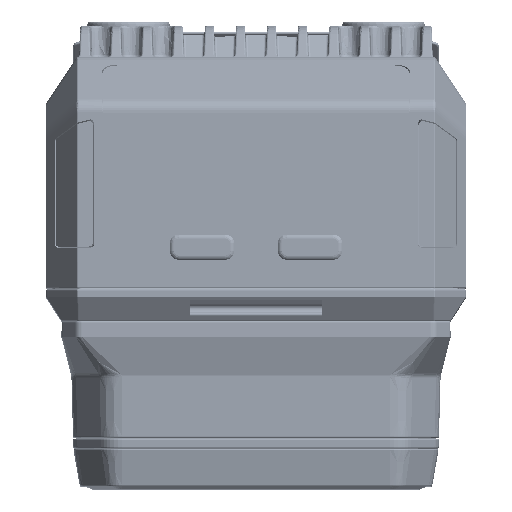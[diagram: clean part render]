
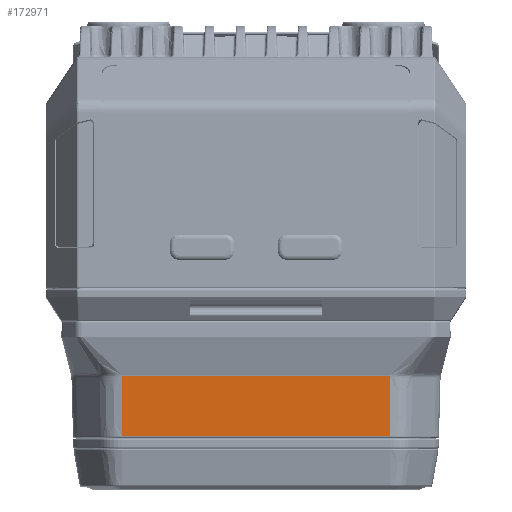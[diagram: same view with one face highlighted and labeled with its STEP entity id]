
A CAD part, top view. The second image highlights one B-rep face of the part: STEP entity #172971.
In plain terms, the highlighted planar face has unit normal (0, -0.026, 1).
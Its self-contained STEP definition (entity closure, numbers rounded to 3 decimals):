
#163862=DIRECTION('',(0.,-1.,
-0.026));
#163863=VECTOR('',#163862,7.695);
#163864=CARTESIAN_POINT('',(-17.209,-7.113,
36.497));
#163865=LINE('',#163864,#163863);
#163901=DIRECTION('',(0.,1.,0.026));
#163902=VECTOR('',#163901,7.695);
#163903=CARTESIAN_POINT('',(17.209,-14.805,
36.296));
#163904=LINE('',#163903,#163902);
#164311=DIRECTION('',(1.,0.,0.));
#164312=VECTOR('',#164311,34.418);
#164313=CARTESIAN_POINT('',(-17.209,-14.805,
36.296));
#164314=LINE('',#164313,#164312);
#167179=DIRECTION('',(-1.,0.,0.));
#167180=VECTOR('',#167179,34.418);
#167181=CARTESIAN_POINT('',(17.209,-7.113,
36.497));
#167182=LINE('',#167181,#167180);
#169968=CARTESIAN_POINT('',(17.209,-14.805,
36.296));
#169969=VERTEX_POINT('',#169968);
#169970=CARTESIAN_POINT('',(-17.209,-14.805,
36.296));
#169971=VERTEX_POINT('',#169970);
#169988=CARTESIAN_POINT('',(-17.209,-7.113,
36.497));
#169989=VERTEX_POINT('',#169988);
#169992=CARTESIAN_POINT('',(17.209,-7.113,
36.497));
#169993=VERTEX_POINT('',#169992);
#172957=CARTESIAN_POINT('',(17.329,-7.,36.5));
#172958=DIRECTION('',(0.,-0.026,1.));
#172959=DIRECTION('',(-1.,0.,0.));
#172960=AXIS2_PLACEMENT_3D('',#172957,#172958,#172959);
#172961=PLANE('',#172960);
#172963=ORIENTED_EDGE('',*,*,#172962,.F.);
#172965=ORIENTED_EDGE('',*,*,#172964,.F.);
#172966=ORIENTED_EDGE('',*,*,#172945,.F.);
#172968=ORIENTED_EDGE('',*,*,#172967,.F.);
#172969=EDGE_LOOP('',(#172963,#172965,#172966,#172968));
#172970=FACE_OUTER_BOUND('',#172969,.F.);
#172945=EDGE_CURVE('',#169989,#169971,#163865,.T.);
#172962=EDGE_CURVE('',#169969,#169993,#163904,.T.);
#172964=EDGE_CURVE('',#169971,#169969,#164314,.T.);
#172967=EDGE_CURVE('',#169993,#169989,#167182,.T.);
#172971=ADVANCED_FACE('',(#172970),#172961,.T.);
